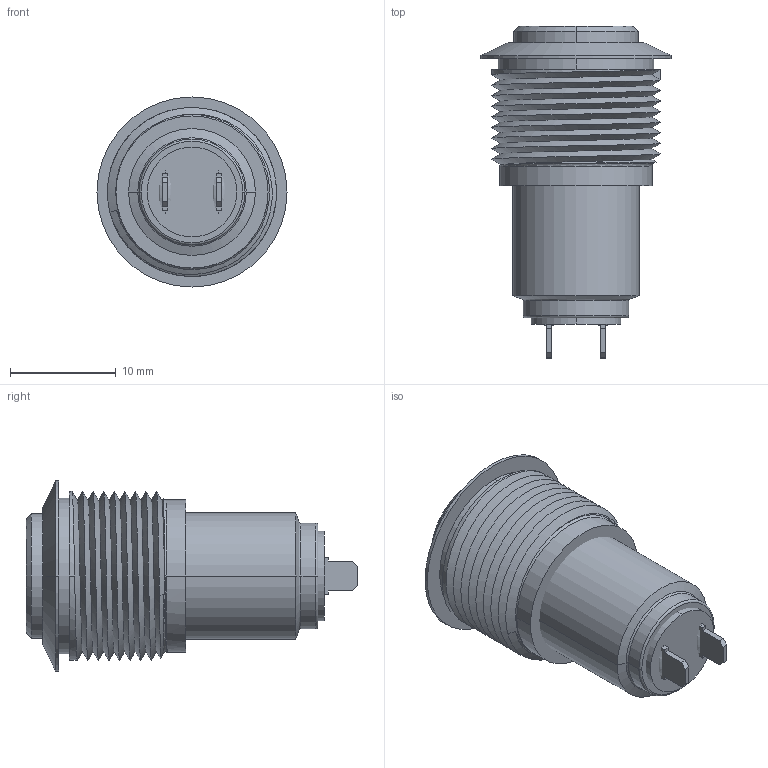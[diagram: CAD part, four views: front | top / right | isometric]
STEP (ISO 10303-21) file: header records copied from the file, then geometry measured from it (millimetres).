
FILE_DESCRIPTION((''),'2;1');
FILE_NAME('AV061001A200','2015-07-15T',('mdamaggio'),(''),'CREO PARAMETRIC BY PTC INC, 2014440','CREO PARAMETRIC BY PTC INC, 2014440','');
FILE_SCHEMA(('CONFIG_CONTROL_DESIGN'));
Length unit declared in the file: millimetre
Products named in the file (1): AV061001A200
Bounding box: 18 x 31.42 x 18 mm (x, y, z)
Surface area: 3059.9 mm2 (no closed solid volume)
Topology: 0 solids, 10 shells, 69 faces, 218 edges, 151 vertices
Faces by surface type: plane 30, cylinder 16, bspline 10, cone 7, torus 6
Entity records: 6626 total; most frequent: CARTESIAN_POINT 4783, ORIENTED_EDGE 363, DIRECTION 352, EDGE_CURVE 210, VERTEX_POINT 151, AXIS2_PLACEMENT_3D 124, VECTOR 104, LINE 104
